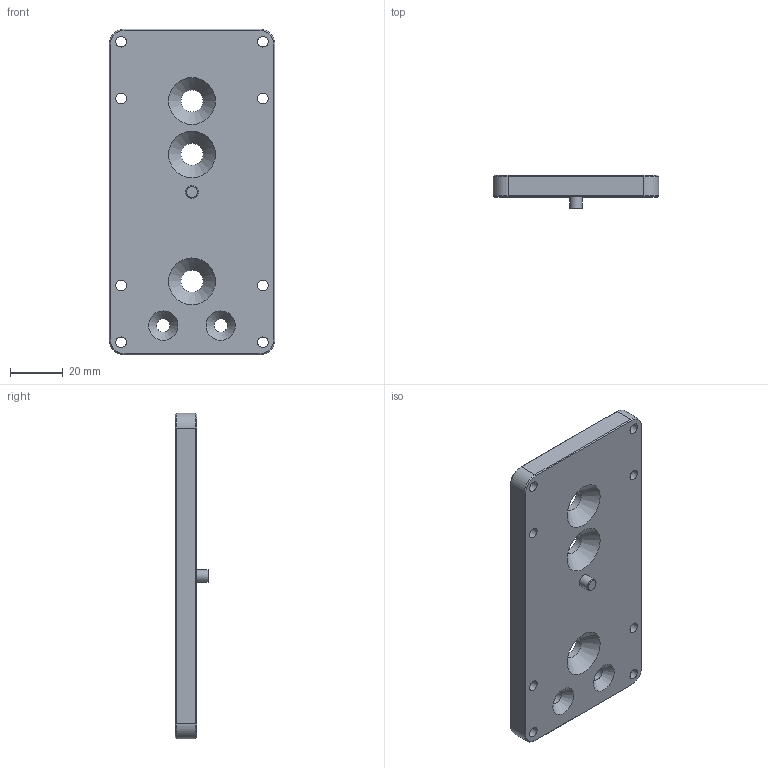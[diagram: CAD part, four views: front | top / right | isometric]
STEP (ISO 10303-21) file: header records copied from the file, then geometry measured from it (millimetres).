
FILE_DESCRIPTION((''),'2;1');
FILE_NAME('F:\CAD files\Itr\3D MARKETING MODELS\ACCESSORIES\AC1052\AC1052.stp','2017-04-24T12:48:06',('mlampen'),(''),'Autodesk Inventor 2010','Autodesk Inventor 2010','');
FILE_SCHEMA(('AUTOMOTIVE_DESIGN { 1 0 10303 214 1 1 1 1 }'));
Length unit declared in the file: inch
Products named in the file (1): Part2
Bounding box: 62.99 x 12.7 x 123.83 mm (x, y, z)
Volume: 59069.4 mm3; surface area: 19365.8 mm2
Topology: 1 solids, 1 shells, 50 faces, 115 edges, 69 vertices
Faces by surface type: cylinder 19, plane 16, cone 15
Full cylindrical faces by diameter (mm): 4.039 x8, 4.763 x2, 5.131 x2, 8.382 x3
Entity records: 1378 total; most frequent: DIRECTION 248, CARTESIAN_POINT 213, ORIENTED_EDGE 186, AXIS2_PLACEMENT_3D 104, EDGE_LOOP 100, EDGE_CURVE 93, VERTEX_POINT 69, CIRCLE 53
